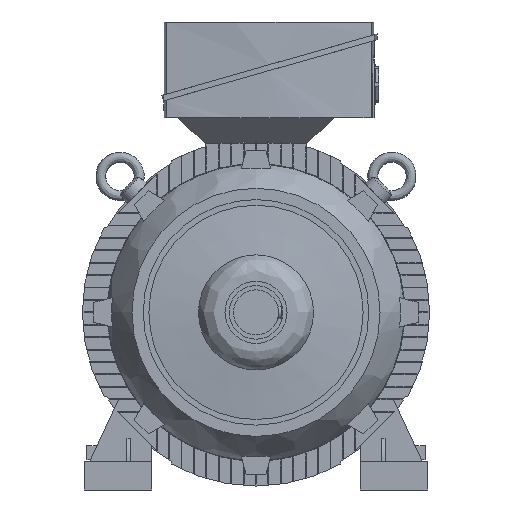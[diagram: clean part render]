
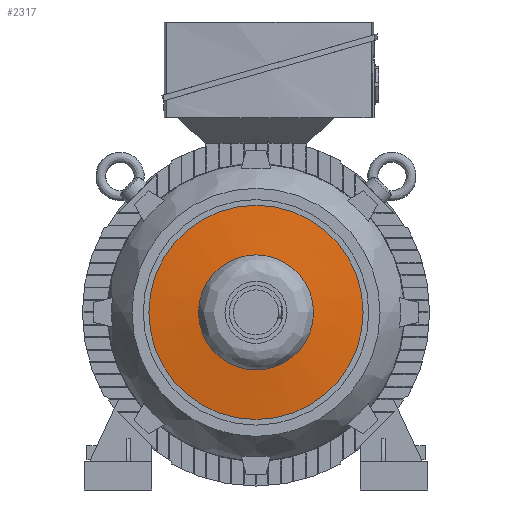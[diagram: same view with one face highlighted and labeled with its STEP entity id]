
A CAD part, left-side view. The second image highlights one B-rep face of the part: STEP entity #2317.
In plain terms, the highlighted conical face has half-angle 83.517 degrees and reference radius 190 mm.
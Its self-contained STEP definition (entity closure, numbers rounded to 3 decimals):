
#990 = CARTESIAN_POINT ( 'NONE',  ( -64., 0., 0. ) ) ;
#991 = DIRECTION ( 'NONE',  ( 1., 0., 0. ) ) ;
#992 = DIRECTION ( 'NONE',  ( 0., 0., -1. ) ) ;
#2317 = ADVANCED_FACE ( 'NONE', ( #24486, #24485 ), #24493, .T. ) ;
#3636 = VERTEX_POINT ( 'NONE', #5876 ) ;
#3641 = VERTEX_POINT ( 'NONE', #5881 ) ;
#5876 = CARTESIAN_POINT ( 'NONE',  ( -74., 102., 0. ) ) ;
#5881 = CARTESIAN_POINT ( 'NONE',  ( -64., 0., -190. ) ) ;
#7199 = EDGE_LOOP ( 'NONE', ( #14853 ) ) ;
#7203 = EDGE_LOOP ( 'NONE', ( #14854 ) ) ;
#13154 = EDGE_CURVE ( 'NONE', #3636, #3636, #49127, .T. ) ;
#14853 = ORIENTED_EDGE ( 'NONE', *, *, #15902, .F. ) ;
#14854 = ORIENTED_EDGE ( 'NONE', *, *, #13154, .T. ) ;
#15902 = EDGE_CURVE ( 'NONE', #3641, #3641, #54388, .T. ) ;
#22717 = AXIS2_PLACEMENT_3D ( 'NONE', #31163, #31158, #31174 ) ;
#24485 = FACE_BOUND ( 'NONE', #7203, .T. ) ;
#24486 = FACE_OUTER_BOUND ( 'NONE', #7199, .T. ) ;
#24493 = CONICAL_SURFACE ( 'NONE', #22717, 190., 1.458 ) ;
#31158 = DIRECTION ( 'NONE',  ( 1., 0., 0. ) ) ;
#31163 = CARTESIAN_POINT ( 'NONE',  ( -64., 0., 0. ) ) ;
#31174 = DIRECTION ( 'NONE',  ( 0., 0., -1. ) ) ;
#44440 = AXIS2_PLACEMENT_3D ( 'NONE', #51075, #51076, #51078 ) ;
#44595 = AXIS2_PLACEMENT_3D ( 'NONE', #990, #991, #992 ) ;
#49127 = CIRCLE ( 'NONE', #44440, 102. ) ;
#51075 = CARTESIAN_POINT ( 'NONE',  ( -74., 0., 0. ) ) ;
#51076 = DIRECTION ( 'NONE',  ( 1., 0., 0. ) ) ;
#51078 = DIRECTION ( 'NONE',  ( 0., 1., 0. ) ) ;
#54388 = CIRCLE ( 'NONE', #44595, 190. ) ;
